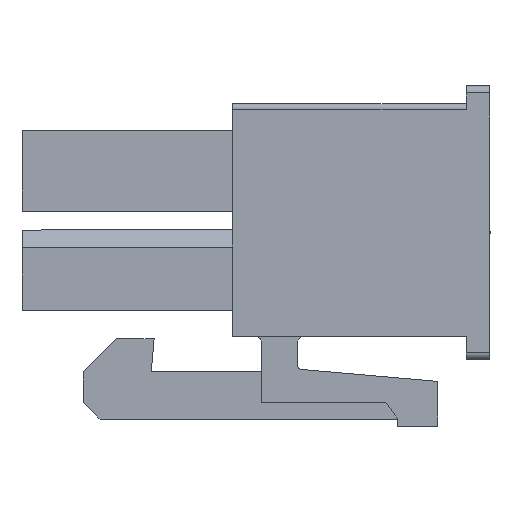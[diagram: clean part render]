
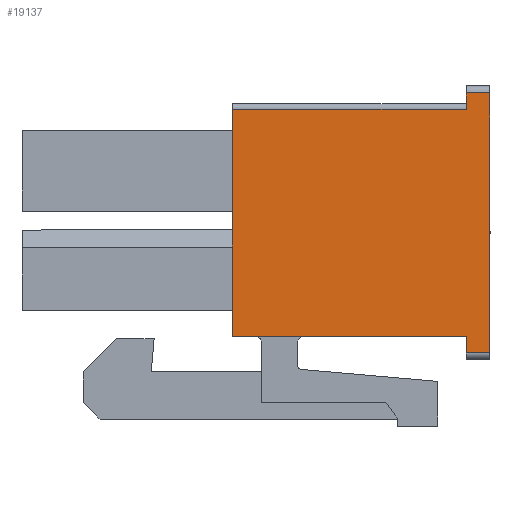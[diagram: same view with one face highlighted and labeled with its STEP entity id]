
A CAD part, left-side view. The second image highlights one B-rep face of the part: STEP entity #19137.
In plain terms, the highlighted planar face has unit normal (-1, 0, 0).
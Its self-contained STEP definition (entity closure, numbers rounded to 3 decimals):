
#494 = CARTESIAN_POINT ( 'NONE',  ( -15.4, 5.5, -9.7 ) ) ;
#945 = PLANE ( 'NONE',  #18844 ) ;
#950 = CARTESIAN_POINT ( 'NONE',  ( -15.4, -5.8, -10.7 ) ) ;
#956 = FACE_OUTER_BOUND ( 'NONE', #7555, .T. ) ;
#958 = DIRECTION ( 'NONE',  ( -1., 0., 0. ) ) ;
#959 = DIRECTION ( 'NONE',  ( 0., 0., 1. ) ) ;
#1211 = VERTEX_POINT ( 'NONE', #7849 ) ;
#2520 = VECTOR ( 'NONE', #3662, 1000. ) ;
#2521 = VECTOR ( 'NONE', #3664, 1000. ) ;
#3651 = LINE ( 'NONE', #3663, #2521 ) ;
#3659 = LINE ( 'NONE', #3661, #2520 ) ;
#3661 = CARTESIAN_POINT ( 'NONE',  ( -15.4, -5.5, -10.7 ) ) ;
#3662 = DIRECTION ( 'NONE',  ( 0., 0., 1. ) ) ;
#3663 = CARTESIAN_POINT ( 'NONE',  ( -15.4, 5.5, -10.7 ) ) ;
#3664 = DIRECTION ( 'NONE',  ( 0., 0., -1. ) ) ;
#4139 = CARTESIAN_POINT ( 'NONE',  ( -15.4, 5.8, -9.7 ) ) ;
#4149 = LINE ( 'NONE', #4139, #18463 ) ;
#4153 = DIRECTION ( 'NONE',  ( 0., 1., 0. ) ) ;
#4172 = LINE ( 'NONE', #4173, #18451 ) ;
#4173 = CARTESIAN_POINT ( 'NONE',  ( -15.4, -4.8, 0.2 ) ) ;
#4174 = DIRECTION ( 'NONE',  ( 0., 0., 1. ) ) ;
#5444 = VERTEX_POINT ( 'NONE', #8482 ) ;
#5456 = VERTEX_POINT ( 'NONE', #8503 ) ;
#5461 = VERTEX_POINT ( 'NONE', #8511 ) ;
#5505 = VERTEX_POINT ( 'NONE', #8588 ) ;
#5557 = VERTEX_POINT ( 'NONE', #8676 ) ;
#5634 = VERTEX_POINT ( 'NONE', #10187 ) ;
#7555 = EDGE_LOOP ( 'NONE', ( #11877, #11876, #11875, #11874, #11873, #11872, #11871, #11870 ) ) ;
#7849 = CARTESIAN_POINT ( 'NONE',  ( -15.4, 4.8, 0.2 ) ) ;
#8482 = CARTESIAN_POINT ( 'NONE',  ( -15.4, -4.8, 0.2 ) ) ;
#8503 = CARTESIAN_POINT ( 'NONE',  ( -15.4, -5.5, -10.7 ) ) ;
#8511 = CARTESIAN_POINT ( 'NONE',  ( -15.4, 4.8, -9.7 ) ) ;
#8588 = CARTESIAN_POINT ( 'NONE',  ( -15.4, -5.5, -9.7 ) ) ;
#8676 = CARTESIAN_POINT ( 'NONE',  ( -15.4, 5.5, -10.7 ) ) ;
#8758 = EDGE_CURVE ( 'NONE', #5456, #5505, #3659, .T. ) ;
#8759 = EDGE_CURVE ( 'NONE', #12272, #5557, #3651, .T. ) ;
#9144 = LINE ( 'NONE', #9145, #13913 ) ;
#9145 = CARTESIAN_POINT ( 'NONE',  ( -15.4, 4.8, 0.2 ) ) ;
#9146 = DIRECTION ( 'NONE',  ( 0., 1., 0. ) ) ;
#9357 = CARTESIAN_POINT ( 'NONE',  ( -15.4, 5.8, -10.7 ) ) ;
#9361 = LINE ( 'NONE', #9357, #13842 ) ;
#9366 = DIRECTION ( 'NONE',  ( 0., -1., 0. ) ) ;
#9378 = CARTESIAN_POINT ( 'NONE',  ( -15.4, -4.8, -9.7 ) ) ;
#9387 = LINE ( 'NONE', #9378, #18785 ) ;
#9391 = DIRECTION ( 'NONE',  ( 0., 1., 0. ) ) ;
#9480 = LINE ( 'NONE', #9481, #18629 ) ;
#9481 = CARTESIAN_POINT ( 'NONE',  ( -15.4, 4.8, 0.2 ) ) ;
#9482 = DIRECTION ( 'NONE',  ( 0., 0., -1. ) ) ;
#10187 = CARTESIAN_POINT ( 'NONE',  ( -15.4, -4.8, -9.7 ) ) ;
#11870 = ORIENTED_EDGE ( 'NONE', *, *, #15555, .T. ) ;
#11871 = ORIENTED_EDGE ( 'NONE', *, *, #15443, .T. ) ;
#11872 = ORIENTED_EDGE ( 'NONE', *, *, #15708, .T. ) ;
#11873 = ORIENTED_EDGE ( 'NONE', *, *, #15525, .T. ) ;
#11874 = ORIENTED_EDGE ( 'NONE', *, *, #8758, .T. ) ;
#11875 = ORIENTED_EDGE ( 'NONE', *, *, #15517, .T. ) ;
#11876 = ORIENTED_EDGE ( 'NONE', *, *, #8759, .T. ) ;
#11877 = ORIENTED_EDGE ( 'NONE', *, *, #15701, .T. ) ;
#12272 = VERTEX_POINT ( 'NONE', #494 ) ;
#13842 = VECTOR ( 'NONE', #9366, 1000. ) ;
#13913 = VECTOR ( 'NONE', #9146, 1000. ) ;
#15443 = EDGE_CURVE ( 'NONE', #5444, #1211, #9144, .T. ) ;
#15517 = EDGE_CURVE ( 'NONE', #5557, #5456, #9361, .T. ) ;
#15525 = EDGE_CURVE ( 'NONE', #5505, #5634, #9387, .T. ) ;
#15555 = EDGE_CURVE ( 'NONE', #1211, #5461, #9480, .T. ) ;
#15701 = EDGE_CURVE ( 'NONE', #5461, #12272, #4149, .T. ) ;
#15708 = EDGE_CURVE ( 'NONE', #5634, #5444, #4172, .T. ) ;
#18451 = VECTOR ( 'NONE', #4174, 1000. ) ;
#18463 = VECTOR ( 'NONE', #4153, 1000. ) ;
#18629 = VECTOR ( 'NONE', #9482, 1000. ) ;
#18785 = VECTOR ( 'NONE', #9391, 1000. ) ;
#18844 = AXIS2_PLACEMENT_3D ( 'NONE', #950, #958, #959 ) ;
#19137 = ADVANCED_FACE ( 'NONE', ( #956 ), #945, .T. ) ;
